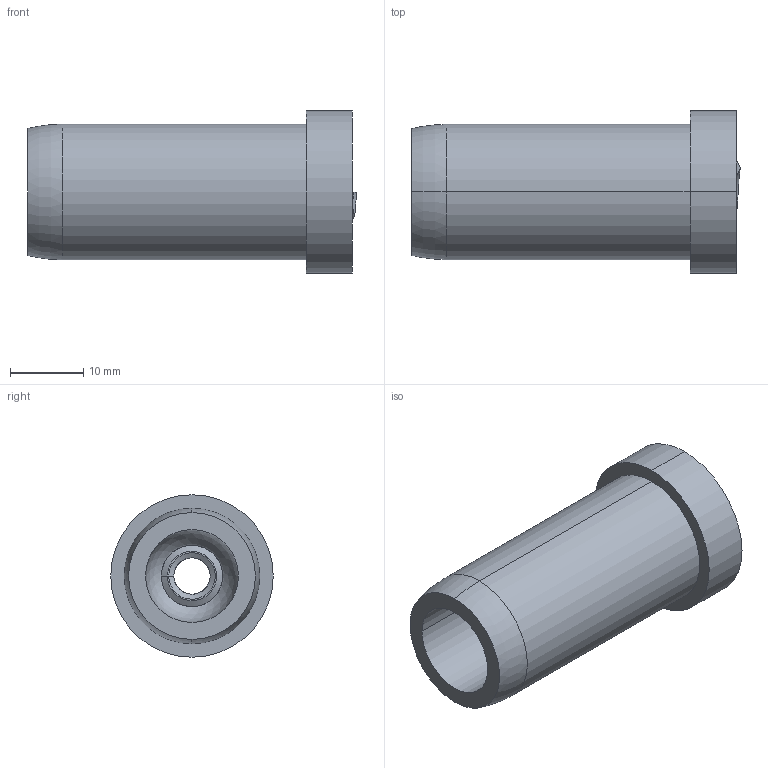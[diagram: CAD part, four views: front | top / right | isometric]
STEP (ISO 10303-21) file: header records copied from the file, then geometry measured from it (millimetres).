
FILE_DESCRIPTION (( 'STEP AP203' ), '1' );
FILE_NAME ('FDPCK-MC.75-S-END-THRD.step', '2019-09-11T18:32:46', ( 'ydmin' ), ( '' ), 'SwSTEP 2.0', 'SolidWorks 2017', '' );
FILE_SCHEMA (( 'CONFIG_CONTROL_DESIGN' ));
Length unit declared in the file: inch
Products named in the file (1): FDPCK-MC.75-S-END-THRD
Bounding box: 45.01 x 22.23 x 22.23 mm (x, y, z)
Volume: 8122.6 mm3; surface area: 5694.4 mm2
Topology: 2 solids, 2 shells, 24 faces, 54 edges, 35 vertices
Faces by surface type: cylinder 8, bspline 8, plane 5, torus 2, sphere 1
Entity records: 4149 total; most frequent: CARTESIAN_POINT 3575, ORIENTED_EDGE 104, DIRECTION 98, EDGE_CURVE 52, AXIS2_PLACEMENT_3D 37, VERTEX_POINT 34, EDGE_LOOP 28, LINE 24
